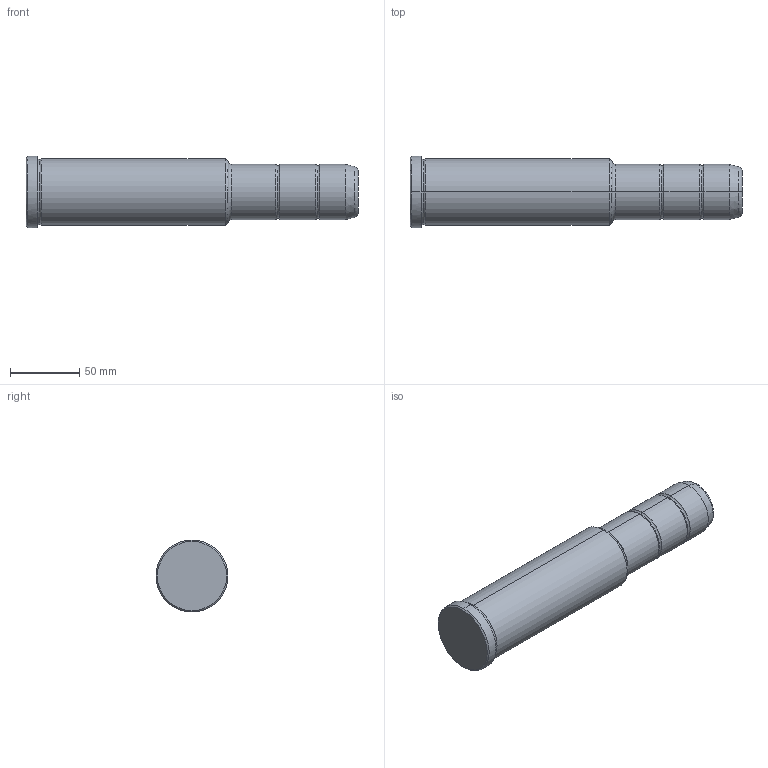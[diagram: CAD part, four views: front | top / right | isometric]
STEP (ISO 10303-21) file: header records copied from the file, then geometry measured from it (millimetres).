
FILE_DESCRIPTION(('CATIA V5 STEP Exchange'),'2;1');
FILE_NAME('C:\Users\Utente\Desktop\IO LAVORO\3D X SITO CF\X SITO\PLASTICA\351\351-40X146X240.stp','2021-10-28T18:47:09+00:00',('none'),('none'),'CATIA Version 5 Release 20 GA (IN-10)','CATIA V5 STEP AP203','none');
FILE_SCHEMA(('CONFIG_CONTROL_DESIGN'));
Length unit declared in the file: millimetre
Products named in the file (1): 351-40X146X240
Bounding box: 240 x 52 x 52 mm (x, y, z)
Volume: 382648.7 mm3; surface area: 37624.6 mm2
Topology: 1 solids, 1 shells, 36 faces, 102 edges, 70 vertices
Faces by surface type: torus 16, cylinder 10, cone 6, plane 4
Entity records: 1292 total; most frequent: CARTESIAN_POINT 321, ORIENTED_EDGE 204, DIRECTION 166, AXIS2_PLACEMENT_3D 115, EDGE_CURVE 102, CIRCLE 78, VERTEX_POINT 70, EDGE_LOOP 38
